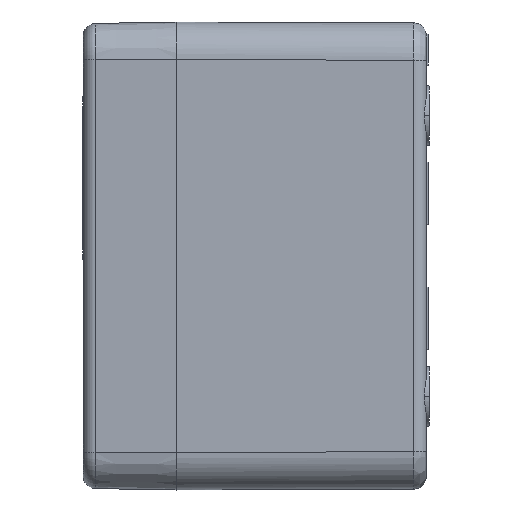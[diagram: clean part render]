
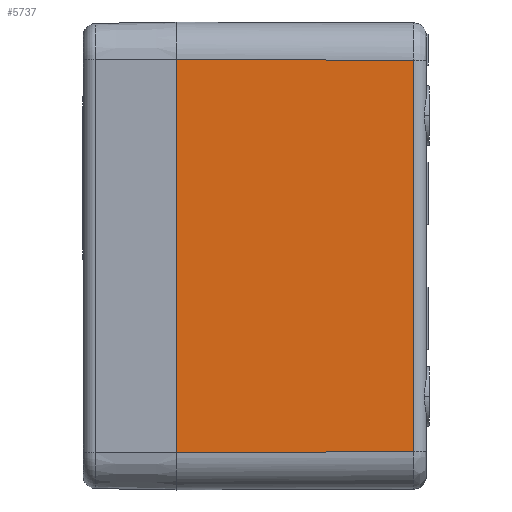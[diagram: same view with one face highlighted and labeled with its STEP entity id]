
A CAD part, left-side view. The second image highlights one B-rep face of the part: STEP entity #5737.
In plain terms, the highlighted planar face has unit normal (-1, -0.004, 0).
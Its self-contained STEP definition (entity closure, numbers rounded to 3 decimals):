
#656=CARTESIAN_POINT('',(-95.,0.,-31.5));
#704=CARTESIAN_POINT('',(-95.,0.,31.5));
#715=DIRECTION('',(0.,0.,-1.));
#716=VECTOR('',#715,63.);
#717=CARTESIAN_POINT('',(-95.,0.,31.5));
#718=LINE('',#717,#716);
#2097=DIRECTION('',(0.,0.,1.));
#2098=VECTOR('',#2097,62.715);
#2099=CARTESIAN_POINT('',(-94.857,-38.007,
-31.358));
#2100=LINE('',#2099,#2098);
#2292=CARTESIAN_POINT('',(-94.857,-38.007,
31.358));
#2297=DIRECTION('',(-0.004,1.,-0.004));
#2298=VECTOR('',#2297,38.008);
#2299=CARTESIAN_POINT('',(-94.857,-38.007,
-31.358));
#2300=LINE('',#2299,#2298);
#2304=DIRECTION('',(-0.004,1.,0.004));
#2305=VECTOR('',#2304,38.008);
#2306=CARTESIAN_POINT('',(-94.857,-38.007,
31.358));
#2307=LINE('',#2306,#2305);
#2311=CARTESIAN_POINT('',(-94.857,-38.007,
-31.358));
#3681=VERTEX_POINT('',#656);
#3686=VERTEX_POINT('',#704);
#3690=VERTEX_POINT('',#2311);
#3704=VERTEX_POINT('',#2292);
#5725=CARTESIAN_POINT('',(-94.925,-20.,0.));
#5726=DIRECTION('',(1.,0.004,0.));
#5727=DIRECTION('',(-0.004,1.,0.));
#5728=AXIS2_PLACEMENT_3D('',#5725,#5726,#5727);
#5729=PLANE('',#5728);
#5730=ORIENTED_EDGE('',*,*,#5430,.F.);
#5732=ORIENTED_EDGE('',*,*,#5731,.T.);
#5733=ORIENTED_EDGE('',*,*,#4177,.F.);
#5734=ORIENTED_EDGE('',*,*,#5718,.F.);
#5735=EDGE_LOOP('',(#5730,#5732,#5733,#5734));
#5736=FACE_OUTER_BOUND('',#5735,.F.);
#4177=EDGE_CURVE('',#3686,#3681,#718,.T.);
#5430=EDGE_CURVE('',#3690,#3704,#2100,.T.);
#5718=EDGE_CURVE('',#3704,#3686,#2307,.T.);
#5731=EDGE_CURVE('',#3690,#3681,#2300,.T.);
#5737=ADVANCED_FACE('',(#5736),#5729,.F.);
